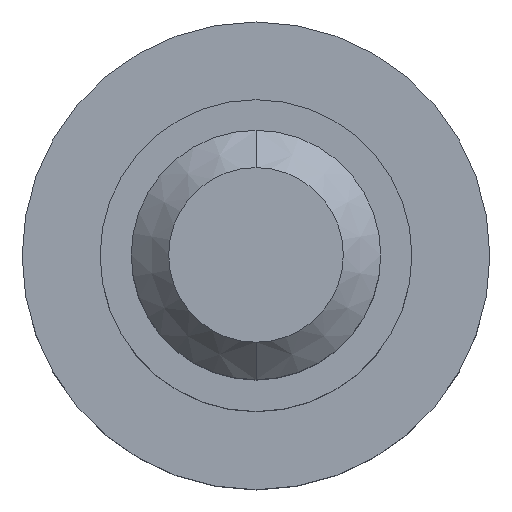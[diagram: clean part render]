
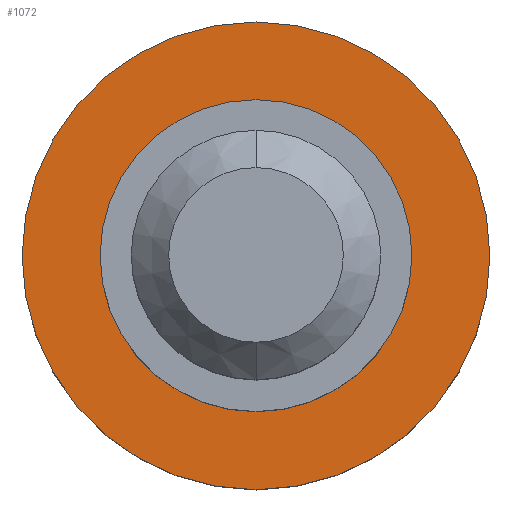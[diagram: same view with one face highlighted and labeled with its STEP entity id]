
A CAD part, top view. The second image highlights one B-rep face of the part: STEP entity #1072.
In plain terms, the highlighted planar face has unit normal (0, 0, 1).
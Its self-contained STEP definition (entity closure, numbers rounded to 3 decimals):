
#10 = AXIS2_PLACEMENT_3D ( 'NONE', #186, #711, #198 ) ;
#23 = EDGE_LOOP ( 'NONE', ( #666, #129 ) ) ;
#61 = CARTESIAN_POINT ( 'NONE',  ( 0., 0., 0. ) ) ;
#70 = EDGE_CURVE ( 'NONE', #331, #921, #220, .T. ) ;
#71 = DIRECTION ( 'NONE',  ( 0., 0., 1. ) ) ;
#129 = ORIENTED_EDGE ( 'NONE', *, *, #131, .F. ) ;
#131 = EDGE_CURVE ( 'NONE', #597, #153, #239, .T. ) ;
#145 = CIRCLE ( 'NONE', #196, 7.5 ) ;
#153 = VERTEX_POINT ( 'NONE', #919 ) ;
#155 = DIRECTION ( 'NONE',  ( 0., -1., 0. ) ) ;
#163 = ORIENTED_EDGE ( 'NONE', *, *, #391, .T. ) ;
#167 = CARTESIAN_POINT ( 'NONE',  ( 0., -7.5, 0. ) ) ;
#186 = CARTESIAN_POINT ( 'NONE',  ( 0., 0., 0. ) ) ;
#196 = AXIS2_PLACEMENT_3D ( 'NONE', #213, #788, #155 ) ;
#198 = DIRECTION ( 'NONE',  ( 0., -1., 0. ) ) ;
#213 = CARTESIAN_POINT ( 'NONE',  ( 0., 0., 0. ) ) ;
#220 = CIRCLE ( 'NONE', #423, 7.5 ) ;
#239 = CIRCLE ( 'NONE', #656, 5. ) ;
#291 = DIRECTION ( 'NONE',  ( 0., -1., 0. ) ) ;
#300 = CARTESIAN_POINT ( 'NONE',  ( 0., 0., 0. ) ) ;
#331 = VERTEX_POINT ( 'NONE', #559 ) ;
#366 = PLANE ( 'NONE',  #10 ) ;
#391 = EDGE_CURVE ( 'NONE', #921, #331, #145, .T. ) ;
#410 = CARTESIAN_POINT ( 'NONE',  ( 0., 0., 0. ) ) ;
#423 = AXIS2_PLACEMENT_3D ( 'NONE', #300, #722, #291 ) ;
#527 = ORIENTED_EDGE ( 'NONE', *, *, #70, .T. ) ;
#559 = CARTESIAN_POINT ( 'NONE',  ( 0., 7.5, 0. ) ) ;
#586 = AXIS2_PLACEMENT_3D ( 'NONE', #410, #670, #1012 ) ;
#597 = VERTEX_POINT ( 'NONE', #986 ) ;
#631 = FACE_BOUND ( 'NONE', #23, .T. ) ;
#656 = AXIS2_PLACEMENT_3D ( 'NONE', #61, #71, #1026 ) ;
#666 = ORIENTED_EDGE ( 'NONE', *, *, #812, .F. ) ;
#670 = DIRECTION ( 'NONE',  ( 0., 0., 1. ) ) ;
#711 = DIRECTION ( 'NONE',  ( 0., 0., 1. ) ) ;
#722 = DIRECTION ( 'NONE',  ( 0., 0., 1. ) ) ;
#788 = DIRECTION ( 'NONE',  ( 0., 0., 1. ) ) ;
#812 = EDGE_CURVE ( 'NONE', #153, #597, #1065, .T. ) ;
#891 = FACE_OUTER_BOUND ( 'NONE', #1114, .T. ) ;
#919 = CARTESIAN_POINT ( 'NONE',  ( 0., 5., 0. ) ) ;
#921 = VERTEX_POINT ( 'NONE', #167 ) ;
#986 = CARTESIAN_POINT ( 'NONE',  ( 0., -5., 0. ) ) ;
#1012 = DIRECTION ( 'NONE',  ( 0., -1., 0. ) ) ;
#1026 = DIRECTION ( 'NONE',  ( 0., -1., 0. ) ) ;
#1065 = CIRCLE ( 'NONE', #586, 5. ) ;
#1072 = ADVANCED_FACE ( 'NONE', ( #631, #891 ), #366, .T. ) ;
#1114 = EDGE_LOOP ( 'NONE', ( #163, #527 ) ) ;
